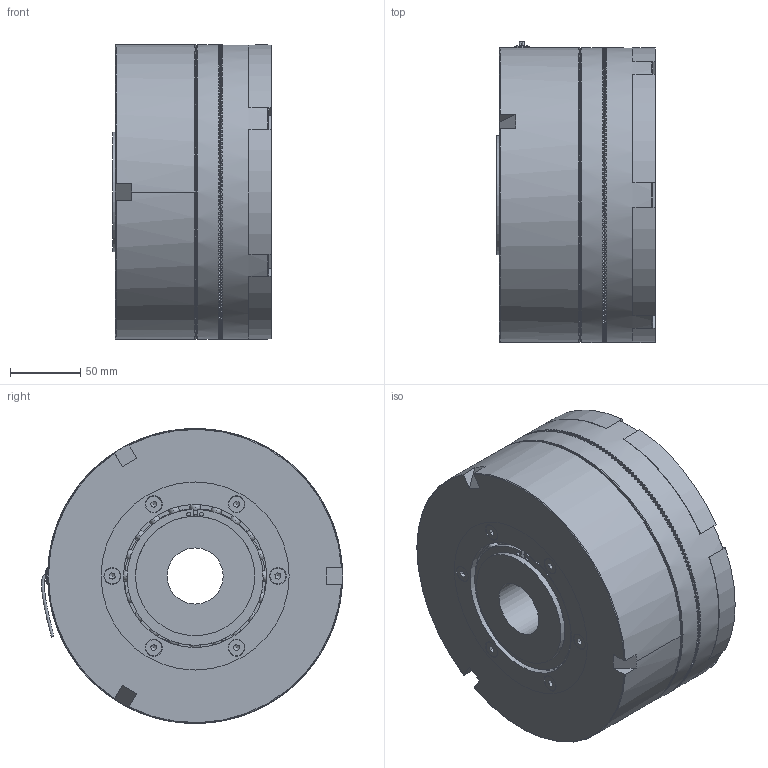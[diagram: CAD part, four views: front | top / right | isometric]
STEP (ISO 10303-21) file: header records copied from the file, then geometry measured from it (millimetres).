
FILE_DESCRIPTION(/* description */ (''),/* implementation_level */ '2;1');
FILE_NAME(/* name */ 'X:\INVENTOR\DISEGNI\07_Innesti_Elettmag_a_Dentini\07_05 ESB_Z\07_05_210_01 ESB210_Z\07_05_210_01 ESB210_Z - 2015@STEP.stp',/* time_stamp */ '2018-05-03T11:52:57+02:00',/* author */ ('stefano'),/* organization */ (''),/* preprocessor_version */ 'ST-DEVELOPER v17',/* originating_system */ 'Autodesk Inventor 2018',/* authorisation */ '');
FILE_SCHEMA (('AUTOMOTIVE_DESIGN { 1 0 10303 214 3 1 1 }'));
Products named in the file (1): 07_05_210_01 ESB210_Z - 2015_Substitute_1
Bounding box: 113 x 214.44 x 210 mm (x, y, z)
Volume: 3165555.9 mm3; surface area: 374175 mm2
Topology: 2 solids, 2 shells, 2264 faces, 6875 edges, 4584 vertices
Faces by surface type: plane 1986, cylinder 179, torus 47, cone 29, sphere 20, bspline 3
Full cylindrical faces by diameter (mm): 3 x2, 3.5 x2, 4 x1, 4.917 x3, 7.9 x3, 8.5 x3, 8.6 x48, 11 x1, 11.34 x6, 12 x9, 13 x3, 40 x1, 81 x1, 85 x3, 92 x1, 93 x2, 100 x1, 102 x3, 103 x1, 104 x1, 105 x1, 109 x1, 110 x2, 114.5 x1, 146.5 x1, 148 x1, 164.5 x1, 176 x1, 190 x1, 193 x1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
Entity records: 82048 total; most frequent: CARTESIAN_POINT 16583, DIRECTION 15206, ORIENTED_EDGE 13654, EDGE_CURVE 6827, AXIS2_PLACEMENT_3D 6377, VERTEX_POINT 4584, ELLIPSE 2567, EDGE_LOOP 2461
